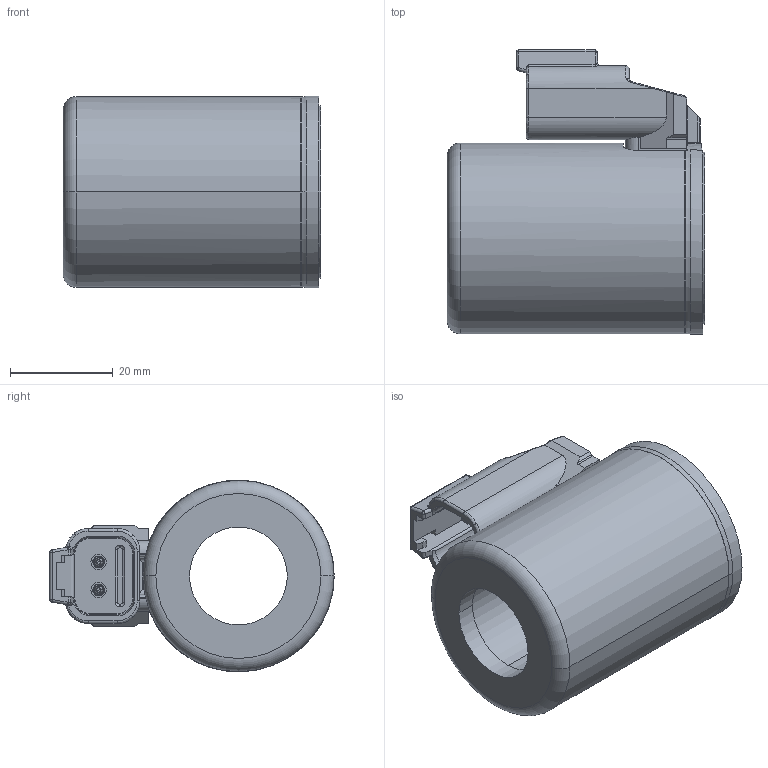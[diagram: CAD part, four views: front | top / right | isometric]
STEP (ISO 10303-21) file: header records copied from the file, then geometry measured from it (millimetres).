
FILE_DESCRIPTION (( 'STEP AP214' ), '1' );
FILE_NAME ('WGS37_19x50.STEP', '2017-03-02T12:36:54', ( '' ), ( '' ), 'SwSTEP 2.0', 'SolidWorks 2016', '' );
FILE_SCHEMA (( 'AUTOMOTIVE_DESIGN' ));
Length unit declared in the file: millimetre
Products named in the file (1): WGS37_19x50
Bounding box: 50.1 x 55.34 x 37.28 mm (x, y, z)
Volume: 43442.9 mm3; surface area: 14064 mm2
Topology: 1 solids, 1 shells, 546 faces, 1435 edges, 922 vertices
Faces by surface type: plane 236, cylinder 221, bspline 38, torus 29, sphere 13, cone 9
Entity records: 23019 total; most frequent: CARTESIAN_POINT 9285, ORIENTED_EDGE 2854, DIRECTION 2803, EDGE_CURVE 1427, AXIS2_PLACEMENT_3D 1010, VERTEX_POINT 922, LINE 783, VECTOR 783
